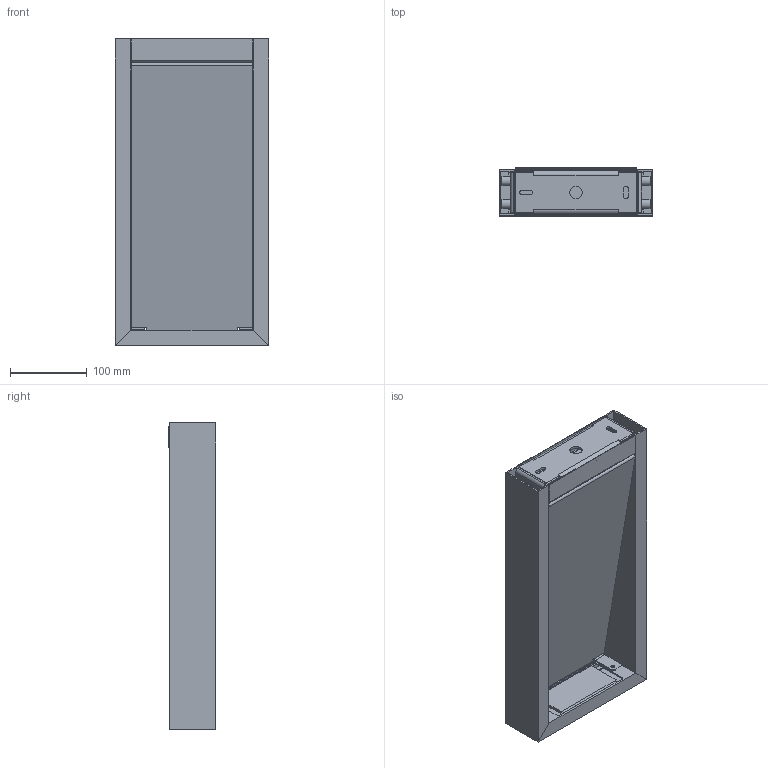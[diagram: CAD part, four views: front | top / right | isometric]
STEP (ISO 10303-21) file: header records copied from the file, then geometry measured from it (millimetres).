
FILE_DESCRIPTION((''),'2;1');
FILE_NAME('ARKE_400_SW0003','2025-05-23T12:09:58',('elena.baldelli'),(''),'CREO PARAMETRIC BY PTC INC, 2020354','CREO PARAMETRIC BY PTC INC, 2020354','');
FILE_SCHEMA(('CONFIG_CONTROL_DESIGN'));
Length unit declared in the file: millimetre
Products named in the file (1): ARKE_400_SW0003
Bounding box: 200 x 62 x 401 mm (x, y, z)
Surface area: 472669.6 mm2 (no closed solid volume)
Topology: 0 solids, 14 shells, 135 faces, 520 edges, 388 vertices
Faces by surface type: plane 80, cylinder 43, bspline 6, cone 6
Entity records: 6581 total; most frequent: CARTESIAN_POINT 2256, DIRECTION 890, ORIENTED_EDGE 745, EDGE_CURVE 520, VERTEX_POINT 388, VECTOR 334, LINE 334, AXIS2_PLACEMENT_3D 278
